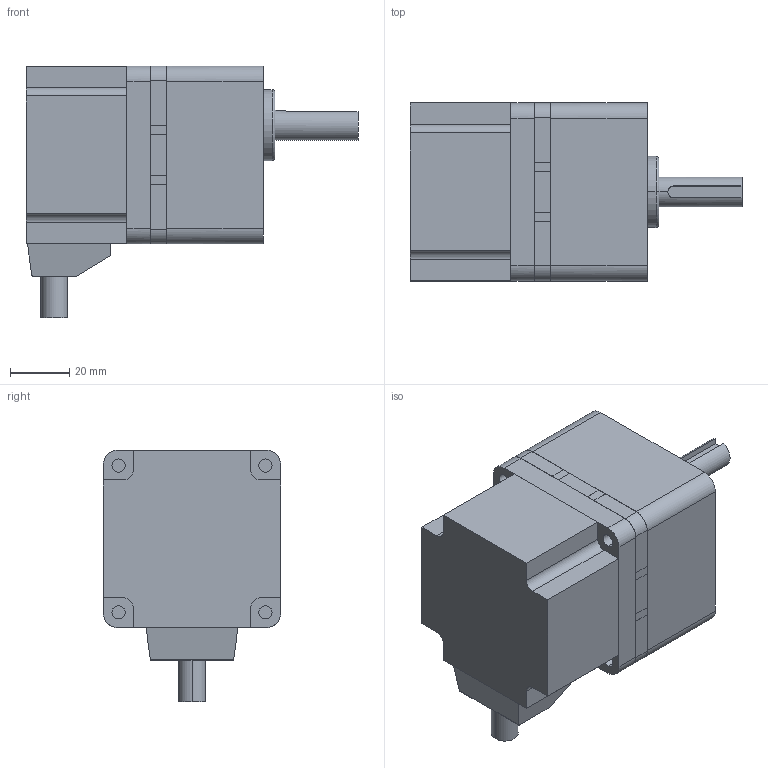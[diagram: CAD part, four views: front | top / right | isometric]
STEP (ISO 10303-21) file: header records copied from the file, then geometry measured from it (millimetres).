
FILE_DESCRIPTION(('starvars output'),'2;1');
FILE_NAME('BLH230KC-50.stp','15:07:16 2015/05/11',( 'Thomas Industrial Network Germany GmbH'),( 'Thomas Industrial Network Germany GmbH'),'unknown preprocess','ACIS' ,'unknown authorization');
FILE_SCHEMA(('AUTOMOTIVE_DESIGN_CC2 {UNKNOWN IMPLEMENTATION LEVEL}'));
Length unit declared in the file: millimetre
Products named in the file (1): PRODUCT_ID_391
Bounding box: 112 x 60 x 85 mm (x, y, z)
Volume: 278926 mm3; surface area: 33139.8 mm2
Topology: 2 solids, 2 shells, 138 faces, 354 edges, 235 vertices
Faces by surface type: plane 91, cylinder 45, torus 2
Entity records: 5147 total; most frequent: CARTESIAN_POINT 711, ORIENTED_EDGE 708, DIRECTION 624, EDGE_CURVE 354, VECTOR 256, LINE 256, VERTEX_POINT 235, AXIS2_PLACEMENT_3D 184
